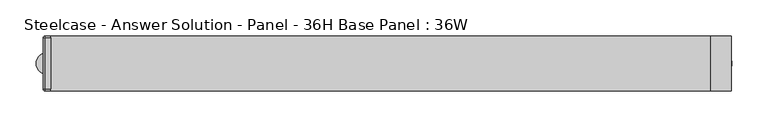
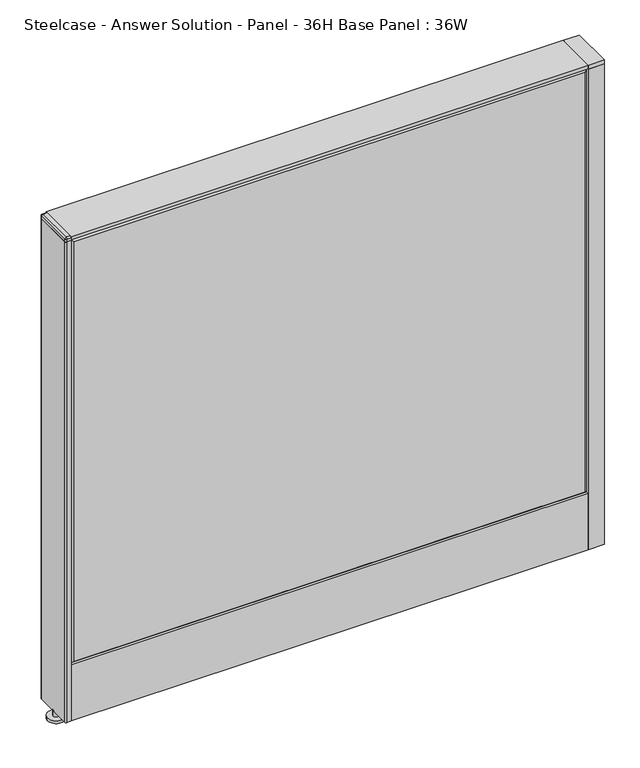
"""IFC4 building model written with IfcOpenShell, lengths in millimetres: furniture geometry, Steelcase - Answer Solution - Panel - 36H Base Panel : 36W."""

from ifc_helpers import new_model, si_unit, point, frame, frame_2d, origin, place, context, project, spatial, polyline, circle_curve, trimmed, segment, composite_curve, outline, extrude, faceted_brep, source, transform, mapped, element, save
from ifc_brep_helpers import plane_surface, spline_surface, advanced_brep


def steelcase_answer_solution_panel_36h_base_panel_36w_4d80de33(model_context):
    return source(origin(), model_context, "Body", "SolidModel", [
        extrude(outline(composite_curve([segment(trimmed(circle_curve(frame_2d((471.424, 0.0320214)), 5.08), [point((476.504, 0.0320214))], [point((466.344, 0.0320214))], False, "CARTESIAN"), True, "CONTINUOUS"), segment(trimmed(circle_curve(frame_2d((471.424, 0.0320214)), 5.08), [point((466.344, 0.0320214))], [point((476.504, 0.0320214))], False, "CARTESIAN"), True, "CONTINUOUS")], self_intersect=False)), frame((0.0, 0.0, 5.0799671), z_axis=(0.0, 0.0, 1.0), x_axis=(1.0, 0.0, 0.0)), (0.0, 0.0, 1.0), 10.414),
        extrude(outline(composite_curve([segment(trimmed(circle_curve(frame_2d((471.424, 0.0320214)), 15.24), [point((486.664, 0.0320214))], [point((456.184, 0.0320214))], False, "CARTESIAN"), True, "CONTINUOUS"), segment(trimmed(circle_curve(frame_2d((471.424, 0.0320214)), 15.24), [point((456.184, 0.0320214))], [point((486.664, 0.0320214))], False, "CARTESIAN"), True, "CONTINUOUS")], self_intersect=False)), frame((0.0, 0.0, -3.29e-05), z_axis=(0.0, 0.0, 1.0), x_axis=(1.0, 0.0, 0.0)), (0.0, 0.0, 1.0), 5.08),
        extrude(outline(polyline([(485.775, 38.1320408), (485.775, -38.0679592), (457.2, -38.0679592), (457.2, 38.1320408), (485.775, 38.1320408)])), frame((0.0, 0.0, 913.4348), z_axis=(0.0, 0.0, 1.0), x_axis=(1.0, 0.0, 0.0)), (0.0, 0.0, 1.0), 7.3151671),
        extrude(outline(polyline([(485.775, 38.1320408), (485.775, -38.0679592), (457.2, -38.0679592), (457.2, 38.1320408), (485.775, 38.1320408)])), frame((0.0, 0.0, 15.4939671), z_axis=(0.0, 0.0, 1.0), x_axis=(1.0, 0.0, 0.0)), (0.0, 0.0, 1.0), 897.9408329),
        extrude(outline(composite_curve([segment(trimmed(circle_curve(frame_2d((-462.28, -0.0320214)), 5.08), [point((-467.36, -0.0320214))], [point((-457.2, -0.0320214))], False, "CARTESIAN"), True, "CONTINUOUS"), segment(trimmed(circle_curve(frame_2d((-462.28, -0.0320214)), 5.08), [point((-457.2, -0.0320214))], [point((-467.36, -0.0320214))], False, "CARTESIAN"), True, "CONTINUOUS")], self_intersect=False)), frame((0.0, 0.0, 5.0799671), z_axis=(0.0, 0.0, 1.0), x_axis=(1.0, 0.0, 0.0)), (0.0, 0.0, 1.0), 10.414),
        extrude(outline(composite_curve([segment(trimmed(circle_curve(frame_2d((-462.28, -0.0320214)), 15.24), [point((-477.52, -0.0320214))], [point((-447.04, -0.0320214))], False, "CARTESIAN"), True, "CONTINUOUS"), segment(trimmed(circle_curve(frame_2d((-462.28, -0.0320214)), 15.24), [point((-447.04, -0.0320214))], [point((-477.52, -0.0320214))], False, "CARTESIAN"), True, "CONTINUOUS")], self_intersect=False)), frame((0.0, 0.0, -3.29e-05), z_axis=(0.0, 0.0, 1.0), x_axis=(1.0, 0.0, 0.0)), (0.0, 0.0, 1.0), 5.08),
        advanced_brep(
        [(-464.5406, 35.2485592, 920.7499671), (-464.5406, -35.3126408, 920.7499671), (-457.2, -35.3126408, 920.7499671), (-457.2, 35.2485592, 920.7499671), (-465.4151197, 38.0679592, 918.8704), (-457.2, 38.0679592, 918.8704), (-457.2, -38.1320408, 918.8704), (-465.4682696, -38.1320408, 918.8704), (-467.36, -36.2403105, 918.8704), (-467.36, 36.1230789, 918.8704)],
        [
            (0, 1),
            (1, 2),
            (2, 3),
            (3, 0),
            (4, 5),
            (5, 6),
            (6, 7),
            (7, 8, circle_curve(frame((-465.4682696, -36.2403105, 918.8704), z_axis=(0.0, 0.0, -1.0), x_axis=(0.0, -1.0, 0.0)), 1.8917304)),
            (8, 9),
            (9, 4, circle_curve(frame((-465.4151197, 36.1230789, 918.8704), z_axis=(0.0, 0.0, -1.0), x_axis=(0.0, -1.0, 0.0)), 1.9448803)),
            (9, 0),
            (0, 4),
            (8, 1),
            (7, 1),
            (6, 2),
            (5, 3),
        ],
        [
            plane_surface(frame((-460.8703, -0.0320408, 920.7499671), z_axis=(0.0, 0.0, 1.0), x_axis=(0.0, -1.0, 0.0))),
            plane_surface(frame((-463.3338982, -0.0408991, 918.8704), z_axis=(0.0, 0.0, -1.0), x_axis=(0.0, -1.0, 0.0))),
            spline_surface(2, 1, [[(-465.4151197, 38.0679592, 918.8704), (-464.5406, 35.2485592, 920.7499671)], [(-467.36, 38.06795919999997, 918.8704), (-464.5406, 35.2485592, 920.7499671)], [(-467.36, 36.1230789, 918.8704), (-464.5406, 35.2485592, 920.7499671)]], [3, 3], [2, 2], [0.0, 1.0], [0.0, 1.0], weights=[[1.0, 1.0], [0.7071067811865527, 0.7071067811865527], [1.0, 1.0]]),
            plane_surface(frame((-467.36, -0.0586158, 918.8704), z_axis=(-0.554693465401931, 0.0, 0.832054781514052), x_axis=(0.0, -1.0, 0.0))),
            spline_surface(2, 1, [[(-467.36, -36.2403105, 918.8704), (-464.5406, -35.3126408, 920.7499671)], [(-467.36000010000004, -38.13204090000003, 918.8704), (-464.5406, -35.3126408, 920.7499671)], [(-465.4682696, -38.1320408, 918.8704), (-464.5406, -35.3126408, 920.7499671)]], [3, 3], [2, 2], [0.0, 1.0], [0.0, 1.0], weights=[[1.0, 1.0], [0.7071067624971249, 0.7071067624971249], [1.0, 1.0]]),
            plane_surface(frame((-461.3341348, -38.1320408, 918.8704), z_axis=(0.0, -0.5546934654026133, 0.8320547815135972), x_axis=(1.0, 0.0, 0.0))),
            plane_surface(frame((-457.2, -0.0320408, 918.8704), z_axis=(1.0, 0.0, 0.0), x_axis=(0.0, 1.0, 0.0))),
            plane_surface(frame((-461.3075599, 38.0679592, 918.8704), z_axis=(0.0, 0.5546934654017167, 0.8320547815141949), x_axis=(-1.0, 0.0, 0.0))),
        ],
        [
            (0, [[1, 2, 3, 4]]),
            (1, [[5, 6, 7, 8, 9, 10]]),
            (2, [[-10, 11, 12]]),
            (3, [[-9, 13, -1, -11]]),
            (4, [[-8, 14, -13]]),
            (5, [[-7, 15, -2, -14]]),
            (6, [[-6, 16, -3, -15]]),
            (7, [[-5, -12, -4, -16]]),
        ],
    ),
        extrude(outline(composite_curve([segment(polyline([(-467.36, -36.2403105), (-467.36, 36.1230789)]), True, "CONTINUOUS"), segment(trimmed(circle_curve(frame_2d((-465.4151197, 36.1230789)), 1.9448803), [point((-467.36, 36.1230789))], [point((-465.4151197, 38.0679592))], False, "CARTESIAN"), True, "CONTINUOUS"), segment(polyline([(-465.4151197, 38.0679592), (-457.2, 38.0679592), (-457.2, -38.1320408), (-465.4682696, -38.1320408)]), True, "CONTINUOUS"), segment(trimmed(circle_curve(frame_2d((-465.4682696, -36.2403105)), 1.8917304), [point((-465.4682696, -38.1320408))], [point((-467.36, -36.2403105))], False, "CARTESIAN"), True, "CONTINUOUS")], self_intersect=False)), frame((0.0, 0.0, 913.4348), z_axis=(0.0, 0.0, 1.0), x_axis=(1.0, 0.0, 0.0)), (0.0, 0.0, 1.0), 5.4356),
        extrude(outline(composite_curve([segment(polyline([(-467.36, -36.2599466), (-467.36, 36.1273143)]), True, "CONTINUOUS"), segment(trimmed(circle_curve(frame_2d((-465.4193552, 36.1273143)), 1.9406448), [point((-467.36, 36.1273143))], [point((-465.4193552, 38.0679592))], False, "CARTESIAN"), True, "CONTINUOUS"), segment(polyline([(-465.4193552, 38.0679592), (-457.2, 38.0679592), (-457.2, -38.1320408), (-465.4879058, -38.1320408)]), True, "CONTINUOUS"), segment(trimmed(circle_curve(frame_2d((-465.4879058, -36.2599466)), 1.8720942), [point((-465.4879058, -38.1320408))], [point((-467.36, -36.2599466))], False, "CARTESIAN"), True, "CONTINUOUS")], self_intersect=False)), frame((0.0, 0.0, 15.4939671), z_axis=(0.0, 0.0, 1.0), x_axis=(1.0, 0.0, 0.0)), (0.0, 0.0, 1.0), 897.9408329),
        faceted_brep([(452.374, 38.1635011, 909.574), (452.374, 38.1635011, 125.476), (-452.374, 38.1635011, 125.476), (-452.374, 38.1635011, 909.574), (457.2, 33.3375011, 914.4), (-457.2, 33.3375011, 914.4), (-457.2, 33.3375011, 120.65), (457.2, 33.3375011, 120.65)], [[[0, 1, 2, 3]], [[4, 5, 6, 7]], [[4, 0, 3, 5]], [[5, 3, 2, 6]], [[6, 2, 1, 7]], [[7, 1, 0, 4]]]),
        faceted_brep([(452.374, -38.1635011, 909.574), (-452.374, -38.1635011, 909.574), (-452.374, -38.1635011, 125.476), (452.374, -38.1635011, 125.476), (457.2, -33.3375011, 914.4), (457.2, -33.3375011, 120.65), (-457.2, -33.3375011, 120.65), (-457.2, -33.3375011, 914.4)], [[[0, 1, 2, 3]], [[4, 5, 6, 7]], [[4, 7, 1, 0]], [[7, 6, 2, 1]], [[6, 5, 3, 2]], [[5, 4, 0, 3]]]),
        extrude(outline(polyline([(457.2, 38.1000194), (457.2, -38.1000194), (-457.2, -38.1000194), (-457.2, 38.1000194), (457.2, 38.1000194)])), frame((0.0, 0.0, 914.4), z_axis=(0.0, 0.0, 1.0), x_axis=(1.0, 0.0, 0.0)), (0.0, 0.0, 1.0), 6.35),
        extrude(outline(polyline([(37.3075215, 119.8575157), (25.4000011, 119.8575157), (25.4000011, 120.65), (38.1000194, 120.65), (38.1000194, 15.494), (37.3075215, 15.494), (37.3075215, 119.8575157)])), frame((-457.2, 0.0, 0.0), z_axis=(1.0, 0.0, 0.0), x_axis=(0.0, 1.0, 0.0)), (0.0, 0.0, 1.0), 914.4),
        extrude(outline(polyline([(-37.3075215, 119.8575157), (-37.3075215, 15.494), (-38.1000194, 15.494), (-38.1000194, 120.65), (-25.4000011, 120.65), (-25.4000011, 119.8575157), (-37.3075215, 119.8575157)])), frame((-457.2, 0.0, 0.0), z_axis=(1.0, 0.0, 0.0), x_axis=(0.0, 1.0, 0.0)), (0.0, 0.0, 1.0), 914.4),
    ])


if __name__ == "__main__":
    model = new_model("IFC4")
    model_context = context("Model", 3, world=origin())
    ifc_project = project(units=[si_unit("LENGTHUNIT", "METRE", prefix="MILLI")], contexts=[model_context])
    site = spatial("IfcSite", under=ifc_project)
    building = spatial("IfcBuilding", under=site)
    placement = place(None, origin())
    steelcase_answer_solution_panel_36h_base_panel_36w_shape = steelcase_answer_solution_panel_36h_base_panel_36w_4d80de33(model_context)
    element("IfcFurniture", 1, ObjectType="Steelcase - Answer Solution - Panel - 36H Base Panel : 36W", at=placement, inside=building, context=model_context, shape_type="MappedRepresentation", body=[
        mapped(steelcase_answer_solution_panel_36h_base_panel_36w_shape, transform((0.0, 0.0, 0.0), x_axis=(1.0, 0.0, 0.0), y_axis=(0.0, 1.0, 0.0), z_axis=(0.0, 0.0, 1.0))),
    ])
    save(model, "model.ifc")
